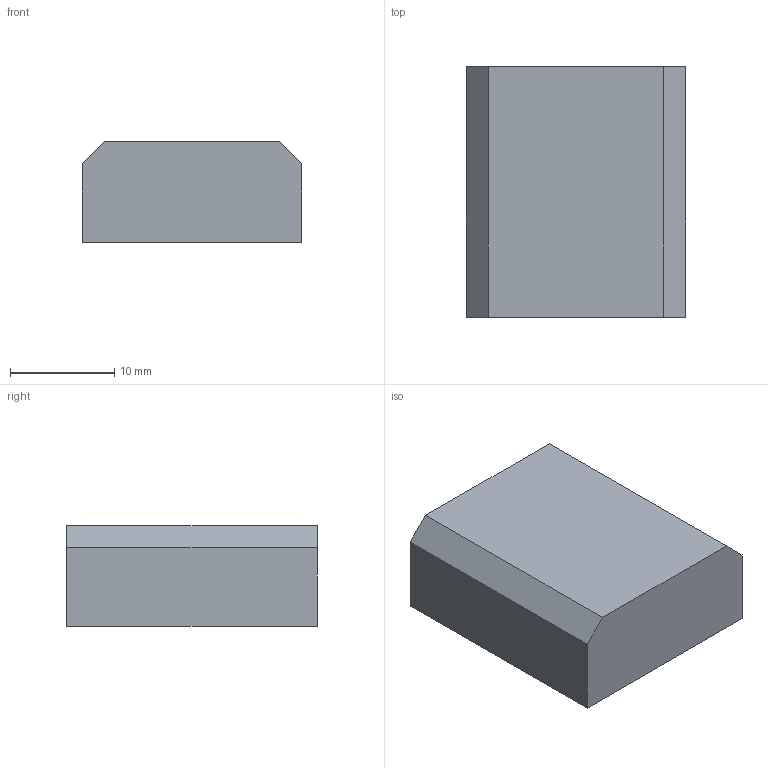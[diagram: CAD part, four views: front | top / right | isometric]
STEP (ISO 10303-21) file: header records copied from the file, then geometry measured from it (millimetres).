
FILE_DESCRIPTION(('Open CASCADE Model'),'2;1');
FILE_NAME('Open CASCADE Shape Model','2026-10-13T14:04:57',('Author'),( 'Open CASCADE'),'Open CASCADE STEP processor 8.0','build123d', 'Unknown');
FILE_SCHEMA(('AUTOMOTIVE_DESIGN { 1 0 10303 214 1 1 1 1 }'));
Length unit declared in the file: millimetre
Products named in the file (4): COMPOUND
Assembly tree (3 placements, depth 2):
  COMPOUND
    COMPOUND
    COMPOUND
    COMPOUND
Bounding box: 21 x 24 x 9.6 mm (x, y, z)
Volume: 3818.8 mm3; surface area: 2907.8 mm2
Topology: 3 solids, 3 shells, 18 faces, 30 edges, 20 vertices
Faces by surface type: plane 14, cylinder 4
Full cylindrical faces by diameter (mm): 4.158 x2, 7.56 x2
Entity records: 932 total; most frequent: CARTESIAN_POINT 144, DIRECTION 140, LINE 74, VECTOR 74, ORIENTED_EDGE 60, PCURVE 60, DEFINITIONAL_REPRESENTATION 60, AXIS2_PLACEMENT_3D 30
